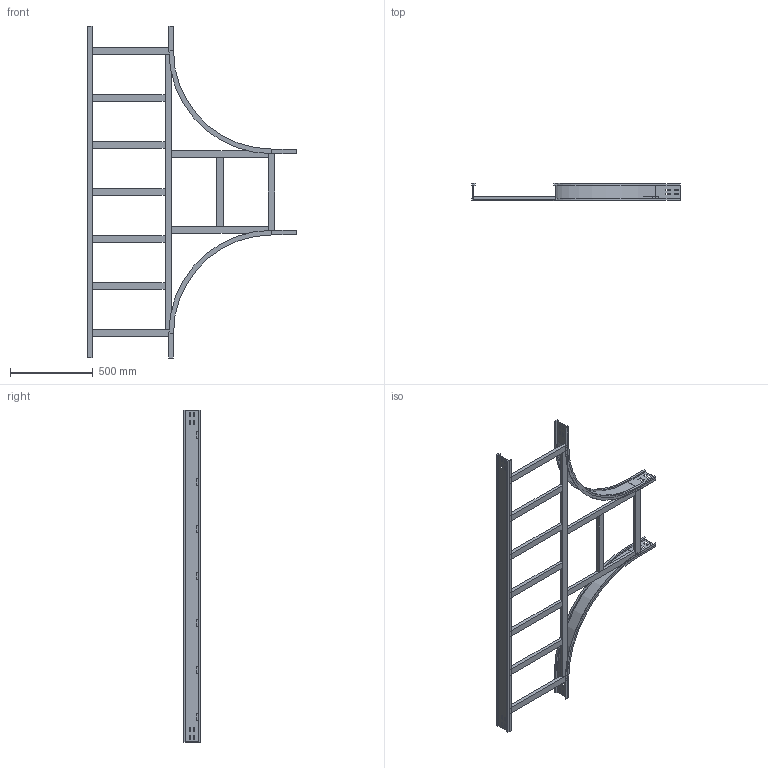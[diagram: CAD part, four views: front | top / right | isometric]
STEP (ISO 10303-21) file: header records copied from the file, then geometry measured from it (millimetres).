
FILE_DESCRIPTION (( 'STEP AP214' ), '1' );
FILE_NAME ('15S6D500.step', '2025-02-21T16:13:05', ( '' ), ( '' ), 'SwSTEP 2.0', 'SolidWorks 2023', '' );
FILE_SCHEMA (( 'AUTOMOTIVE_DESIGN' ));
Length unit declared in the file: millimetre
Products named in the file (8): TRAVERSINO_COPPIA_500; LONGH.INTERNO 90°_H100_R600; TRAVERSINO_INTERMEDIO_R600+500; TRAVERSINO_VERT_R600; TRAVERSINO_500; 15S6D500; LONGH.RETT_H100_R600+500; TRAVERSINO_LONG._R600+500
Assembly tree (15 placements, depth 2):
  15S6D500
    LONGH.INTERNO 90°_H100_R600  x2
    LONGH.RETT_H100_R600+500
    TRAVERSINO_500  x3
    TRAVERSINO_LONG._R600+500
    TRAVERSINO_INTERMEDIO_R600+500  x5
    TRAVERSINO_VERT_R600  x2
    TRAVERSINO_COPPIA_500
Bounding box: 1259 x 100 x 2000 mm (x, y, z)
Volume: 8050651 mm3; surface area: 2196150.5 mm2
Topology: 15 solids, 15 shells, 258 faces, 636 edges, 408 vertices
Faces by surface type: plane 246, cylinder 12
Entity records: 4677 total; most frequent: CARTESIAN_POINT 776, ORIENTED_EDGE 744, DIRECTION 712, EDGE_CURVE 372, LINE 360, VECTOR 360, VERTEX_POINT 240, EDGE_LOOP 178
